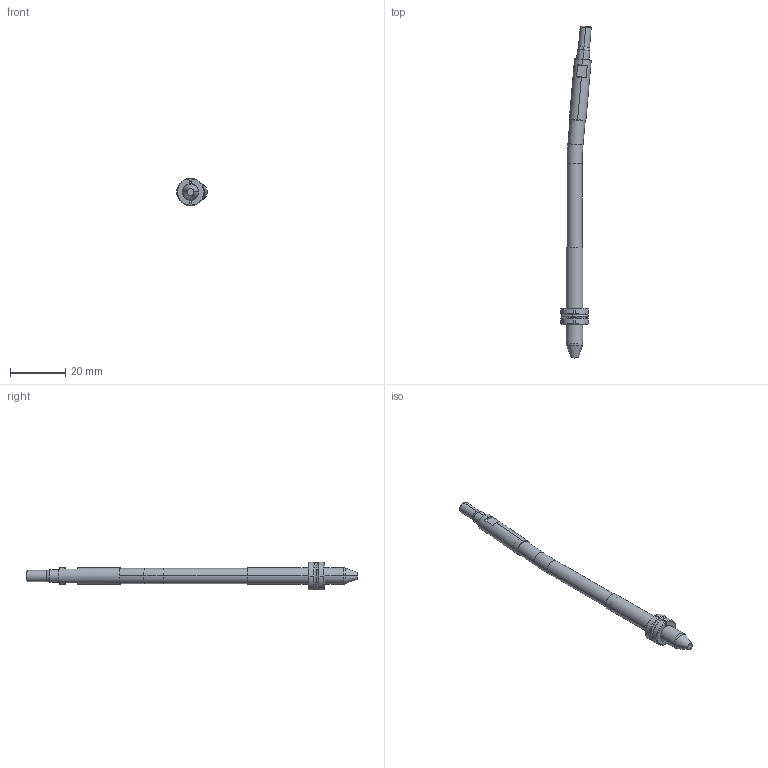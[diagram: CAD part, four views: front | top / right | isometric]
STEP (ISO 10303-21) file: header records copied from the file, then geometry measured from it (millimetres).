
FILE_DESCRIPTION (( 'STEP AP214' ), '1' );
FILE_NAME ('WP060030-INJ 5°.STEP', '2021-03-19T15:11:41', ( '' ), ( '' ), 'SwSTEP 2.0', 'SolidWorks 2019', '' );
FILE_SCHEMA (( 'AUTOMOTIVE_DESIGN' ));
Length unit declared in the file: millimetre
Products named in the file (6): WEB-002-9WP060030-2; WP060030-INJ 5°; WEB-001-9WP060030-1; WEB-007-9WP060030-F_WP060030-F-OFF 5ø; WEB-008-JUNTA-JT7X1X9; WEB-006-9WP060030-6
Assembly tree (5 placements, depth 2):
  WP060030-INJ 5°
    WEB-001-9WP060030-1
    WEB-007-9WP060030-F_WP060030-F-OFF 5ø
    WEB-002-9WP060030-2
    WEB-006-9WP060030-6
    WEB-008-JUNTA-JT7X1X9
Bounding box: 10.99 x 119.78 x 9.99 mm (x, y, z)
Volume: 3174.1 mm3; surface area: 2920.7 mm2
Topology: 6 solids, 6 shells, 112 faces, 260 edges, 162 vertices
Faces by surface type: cylinder 36, cone 28, plane 28, torus 20
Entity records: 3703 total; most frequent: CARTESIAN_POINT 710, DIRECTION 594, ORIENTED_EDGE 520, EDGE_CURVE 260, AXIS2_PLACEMENT_3D 254, VERTEX_POINT 162, CIRCLE 134, EDGE_LOOP 116
